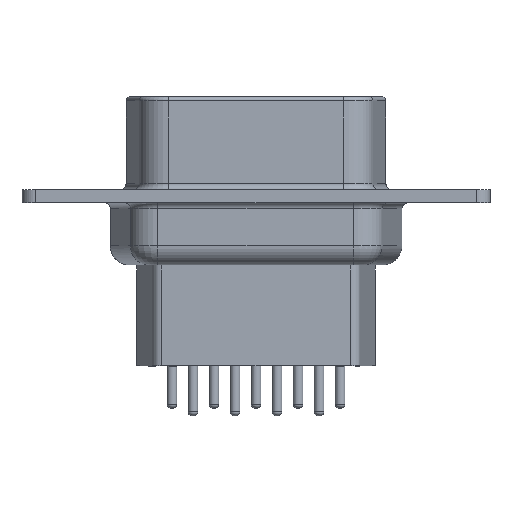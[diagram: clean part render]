
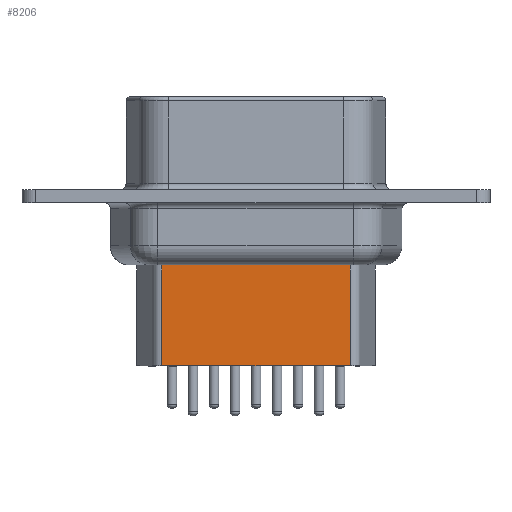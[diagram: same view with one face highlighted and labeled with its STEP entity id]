
A CAD part, front view. The second image highlights one B-rep face of the part: STEP entity #8206.
In plain terms, the highlighted planar face has unit normal (0, -1, 0).
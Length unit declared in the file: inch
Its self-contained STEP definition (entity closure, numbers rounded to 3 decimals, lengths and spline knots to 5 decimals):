
#5408 = CARTESIAN_POINT ( 'NONE',  ( 0.85079, 0.1105, -0.4565 ) ) ;
#5409 = LINE ( 'NONE', #5408, #5441 ) ;
#5410 = CARTESIAN_POINT ( 'NONE',  ( 0.36221, 0.1105, -0.4565 ) ) ;
#5437 = CARTESIAN_POINT ( 'NONE',  ( 0.85079, 0.1105, -0.4565 ) ) ;
#5440 = DIRECTION ( 'NONE',  ( -1., 0., 0. ) ) ;
#5441 = VECTOR ( 'NONE', #5440, 39.37008 ) ;
#7680 = CARTESIAN_POINT ( 'NONE',  ( 0.85079, 0.1105, -0.1955 ) ) ;
#7733 = CARTESIAN_POINT ( 'NONE',  ( 0.36221, 0.1105, -0.1955 ) ) ;
#7739 = DIRECTION ( 'NONE',  ( -1., 0., 0. ) ) ;
#7740 = VECTOR ( 'NONE', #7739, 39.37008 ) ;
#7741 = CARTESIAN_POINT ( 'NONE',  ( 0.85079, 0.1105, -0.1955 ) ) ;
#7742 = LINE ( 'NONE', #7741, #7740 ) ;
#8200 = EDGE_CURVE ( 'NONE', #11388, #14579, #13963, .T. ) ;
#8201 = EDGE_LOOP ( 'NONE', ( #8203, #8205, #8228, #8220 ) ) ;
#8203 = ORIENTED_EDGE ( 'NONE', *, *, #14581, .T. ) ;
#8205 = ORIENTED_EDGE ( 'NONE', *, *, #8231, .F. ) ;
#8206 = ADVANCED_FACE ( 'NONE', ( #14034 ), #14016, .F. ) ;
#8220 = ORIENTED_EDGE ( 'NONE', *, *, #8200, .T. ) ;
#8228 = ORIENTED_EDGE ( 'NONE', *, *, #11318, .F. ) ;
#8231 = EDGE_CURVE ( 'NONE', #11240, #14584, #14056, .T. ) ;
#11240 = VERTEX_POINT ( 'NONE', #5410 ) ;
#11318 = EDGE_CURVE ( 'NONE', #11388, #11240, #5409, .T. ) ;
#11388 = VERTEX_POINT ( 'NONE', #5437 ) ;
#13956 = DIRECTION ( 'NONE',  ( 0., 0., 1. ) ) ;
#13957 = VECTOR ( 'NONE', #13956, 39.37008 ) ;
#13958 = CARTESIAN_POINT ( 'NONE',  ( 0.85079, 0.1105, -0.4565 ) ) ;
#13963 = LINE ( 'NONE', #13958, #13957 ) ;
#14012 = DIRECTION ( 'NONE',  ( -1., 0., 0. ) ) ;
#14013 = DIRECTION ( 'NONE',  ( 0., 1., 0. ) ) ;
#14014 = CARTESIAN_POINT ( 'NONE',  ( 0.85079, 0.1105, -0.4565 ) ) ;
#14015 = AXIS2_PLACEMENT_3D ( 'NONE', #14014, #14013, #14012 ) ;
#14016 = PLANE ( 'NONE',  #14015 ) ;
#14034 = FACE_OUTER_BOUND ( 'NONE', #8201, .T. ) ;
#14053 = DIRECTION ( 'NONE',  ( 0., 0., 1. ) ) ;
#14054 = VECTOR ( 'NONE', #14053, 39.37008 ) ;
#14055 = CARTESIAN_POINT ( 'NONE',  ( 0.36221, 0.1105, -0.4565 ) ) ;
#14056 = LINE ( 'NONE', #14055, #14054 ) ;
#14579 = VERTEX_POINT ( 'NONE', #7680 ) ;
#14581 = EDGE_CURVE ( 'NONE', #14579, #14584, #7742, .T. ) ;
#14584 = VERTEX_POINT ( 'NONE', #7733 ) ;
